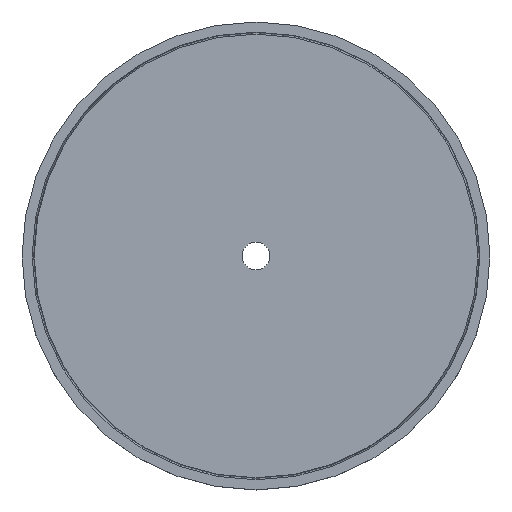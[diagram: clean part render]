
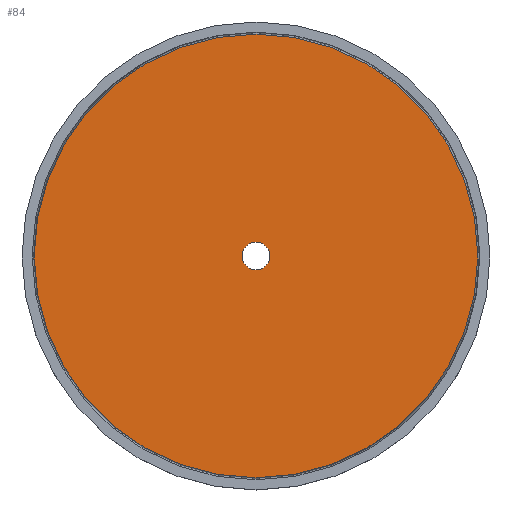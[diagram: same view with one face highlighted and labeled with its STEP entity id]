
A CAD part, top view. The second image highlights one B-rep face of the part: STEP entity #84.
In plain terms, the highlighted planar face has unit normal (0, 0, 1).
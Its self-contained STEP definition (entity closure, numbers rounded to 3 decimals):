
#84 = ADVANCED_FACE( '', ( #107, #108 ), #109, .T. );
#107 = FACE_BOUND( '', #132, .T. );
#108 = FACE_OUTER_BOUND( '', #133, .T. );
#109 = PLANE( '', #134 );
#132 = EDGE_LOOP( '', ( #200, #201 ) );
#133 = EDGE_LOOP( '', ( #202, #203 ) );
#134 = AXIS2_PLACEMENT_3D( '', #204, #205, #206 );
#200 = ORIENTED_EDGE( '', *, *, #235, .F. );
#201 = ORIENTED_EDGE( '', *, *, #217, .F. );
#202 = ORIENTED_EDGE( '', *, *, #221, .T. );
#203 = ORIENTED_EDGE( '', *, *, #234, .T. );
#204 = CARTESIAN_POINT( '', ( 0., 21.159, 7.5 ) );
#205 = DIRECTION( '', ( 0., 0., 1. ) );
#206 = DIRECTION( '', ( 0., 1., 0. ) );
#217 = EDGE_CURVE( '', #241, #237, #243, .T. );
#221 = EDGE_CURVE( '', #245, #249, #251, .T. );
#234 = EDGE_CURVE( '', #249, #245, #270, .T. );
#235 = EDGE_CURVE( '', #237, #241, #271, .T. );
#237 = VERTEX_POINT( '', #273 );
#241 = VERTEX_POINT( '', #278 );
#243 = CIRCLE( '', #281, 2.5 );
#245 = VERTEX_POINT( '', #283 );
#249 = VERTEX_POINT( '', #288 );
#251 = CIRCLE( '', #291, 39.818 );
#270 = CIRCLE( '', #314, 39.818 );
#271 = CIRCLE( '', #315, 2.5 );
#273 = CARTESIAN_POINT( '', ( 0., 2.5, 7.5 ) );
#278 = CARTESIAN_POINT( '', ( 0., -2.5, 7.5 ) );
#281 = AXIS2_PLACEMENT_3D( '', #321, #322, #323 );
#283 = CARTESIAN_POINT( '', ( 0., 39.818, 7.5 ) );
#288 = CARTESIAN_POINT( '', ( 0., -39.818, 7.5 ) );
#291 = AXIS2_PLACEMENT_3D( '', #329, #330, #331 );
#314 = AXIS2_PLACEMENT_3D( '', #360, #361, #362 );
#315 = AXIS2_PLACEMENT_3D( '', #363, #364, #365 );
#321 = CARTESIAN_POINT( '', ( 0., 0., 7.5 ) );
#322 = DIRECTION( '', ( 0., 0., 1. ) );
#323 = DIRECTION( '', ( 0., 1., 0. ) );
#329 = CARTESIAN_POINT( '', ( 0., 0., 7.5 ) );
#330 = DIRECTION( '', ( 0., 0., 1. ) );
#331 = DIRECTION( '', ( 0., 1., 0. ) );
#360 = CARTESIAN_POINT( '', ( 0., 0., 7.5 ) );
#361 = DIRECTION( '', ( 0., 0., 1. ) );
#362 = DIRECTION( '', ( 0., 1., 0. ) );
#363 = CARTESIAN_POINT( '', ( 0., 0., 7.5 ) );
#364 = DIRECTION( '', ( 0., 0., 1. ) );
#365 = DIRECTION( '', ( 0., 1., 0. ) );
